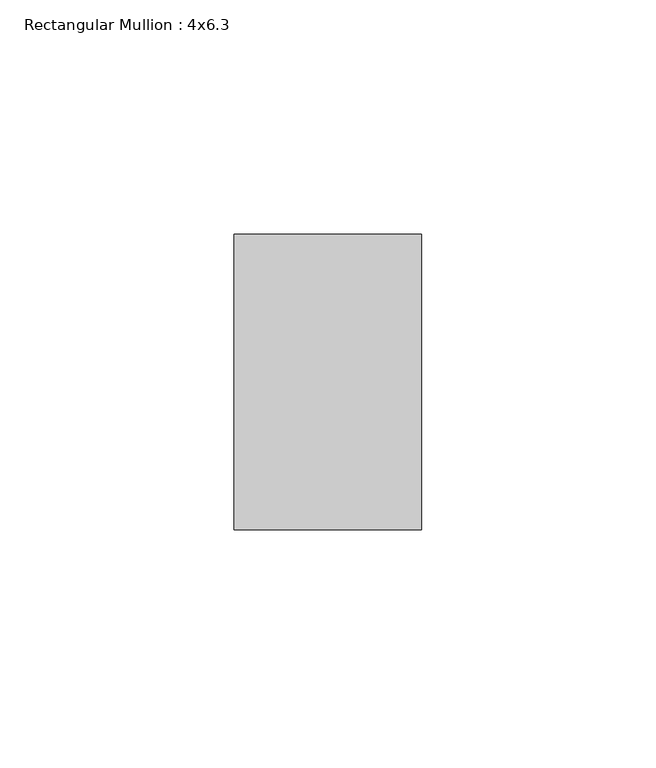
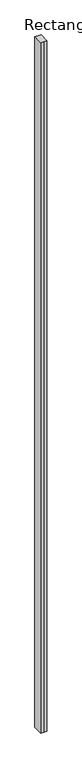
"""IFC4 building model written with IfcOpenShell, lengths in millimetres: member geometry, Rectangular Mullion : 4x6.3."""

import ifcopenshell
import ifcopenshell.guid

model = None  # the IFC model being written
_history = None  # IfcOwnerHistory: only IFC2X3 demands one
_inside = {}  # id of a spatial element -> (the spatial element, [elements in it])
_under = {}  # id of a project, library or spatial element -> (it, [spatial elements below it])
_declared = {}  # id of a project -> (the project, [libraries it declares])
_typed = {}  # id of a type object -> (the type object, [elements of that type])
_made_of = {}  # id of a material, layer set ... -> (it, [elements and type objects made of it])


def new_model(schema):
    """Start an empty IFC model of exactly this schema.

    Asked for "IFC4X3", IfcOpenShell would pick the latest addendum, in which some entities
    have other attributes; the version numbers below select the first issue.
    IFC2X3 requires an IfcOwnerHistory on every rooted entity: one is made here for all.
    """
    global model, _history
    if schema == "IFC4X3":
        model = ifcopenshell.file(schema_version=(4, 3, 0, 0))
    else:
        model = ifcopenshell.file(schema=schema)
    _inside.clear()
    _under.clear()
    _declared.clear()
    _typed.clear()
    _made_of.clear()
    _history = None
    if model.schema == "IFC2X3":
        org = make("IfcOrganization", Name="unknown")
        user = make(
            "IfcPersonAndOrganization",
            ThePerson=make("IfcPerson", FamilyName="unknown"),
            TheOrganization=org,
        )
        app = make(
            "IfcApplication",
            ApplicationDeveloper=org,
            Version="unknown",
            ApplicationFullName="unknown",
            ApplicationIdentifier="unknown",
        )
        _history = make(
            "IfcOwnerHistory",
            OwningUser=user,
            OwningApplication=app,
            ChangeAction="ADDED",
            CreationDate=0,
        )
    return model


def make(cls, **values):
    """One entity of the class cls with the attributes given. An attribute that is None is left unset."""
    return model.create_entity(
        cls, **{name: value for name, value in values.items() if value is not None}
    )


def rooted(cls, **values):
    """An entity with a GlobalId (a new one), such as an element, a storey or a relation."""
    return make(cls, GlobalId=ifcopenshell.guid.new(), OwnerHistory=_history, **values)


def si_unit(unit_type, name, prefix=None):
    """IfcSIUnit, for example si_unit("LENGTHUNIT", "METRE", prefix="MILLI")."""
    return make("IfcSIUnit", UnitType=unit_type, Prefix=prefix, Name=name)


def assignment(units):
    """IfcUnitAssignment: the units of a project."""
    return None if units is None else make("IfcUnitAssignment", Units=units)


def point(xyz):
    """IfcCartesianPoint."""
    return None if xyz is None else make("IfcCartesianPoint", Coordinates=xyz)


def direction(xyz):
    """IfcDirection."""
    return None if xyz is None else make("IfcDirection", DirectionRatios=xyz)


def frame(location, z_axis=None, x_axis=None):
    """IfcAxis2Placement3D, a coordinate frame: its origin and axes. An axis left out is left unset."""
    return make(
        "IfcAxis2Placement3D",
        Location=point(location),
        Axis=direction(z_axis),
        RefDirection=direction(x_axis),
    )


def origin():
    """The frame at (0, 0, 0) with its axes left unset."""
    return frame((0.0, 0.0, 0.0))


def place(relative_to, where):
    """IfcLocalPlacement: puts the frame where relative to a parent placement (None: the world)."""
    return make(
        "IfcLocalPlacement", PlacementRelTo=relative_to, RelativePlacement=where
    )


def context(
    kind, dimensions, precision=None, world=None, true_north=None, identifier=None
):
    """IfcGeometricRepresentationContext, for example the 3D "Model" context."""
    return make(
        "IfcGeometricRepresentationContext",
        ContextIdentifier=identifier,
        ContextType=kind,
        CoordinateSpaceDimension=dimensions,
        Precision=precision,
        WorldCoordinateSystem=world,
        TrueNorth=true_north,
    )


def project(units=None, contexts=None):
    """IfcProject with its units and contexts."""
    return rooted(
        "IfcProject",
        Name="project",
        RepresentationContexts=contexts,
        UnitsInContext=assignment(units),
    )


def spatial(cls, under=None, at=None, **own):
    """A site, building, storey or space (cls), placed at a placement, below another one or the project."""
    s = rooted(cls, ObjectPlacement=at, **own)
    if under is not None:
        _under.setdefault(under.id(), (under, []))[1].append(s)
    return s


def polyline(points):
    """IfcPolyline through the points."""
    return make("IfcPolyline", Points=[point(p) for p in points])


def outline(outer, holes=None, kind="AREA"):
    """IfcArbitraryClosedProfileDef: a profile drawn as a closed curve; with holes, ...WithVoids."""
    if holes is None:
        return make("IfcArbitraryClosedProfileDef", ProfileType=kind, OuterCurve=outer)
    return make(
        "IfcArbitraryProfileDefWithVoids",
        ProfileType=kind,
        OuterCurve=outer,
        InnerCurves=holes,
    )


def extrude(swept, where, along, depth):
    """IfcExtrudedAreaSolid: the profile swept, set in the frame where, extruded along a direction by depth."""
    return make(
        "IfcExtrudedAreaSolid",
        SweptArea=swept,
        Position=where,
        ExtrudedDirection=direction(along),
        Depth=depth,
    )


def shape(context_of_items, identifier, shape_type, items):
    """IfcShapeRepresentation: the items that make up one representation, for example the "Body"."""
    return make(
        "IfcShapeRepresentation",
        ContextOfItems=context_of_items,
        RepresentationIdentifier=identifier,
        RepresentationType=shape_type,
        Items=items,
    )


def source(mapping_origin, context_of_items, identifier, shape_type, items):
    """IfcRepresentationMap: a shape defined once, which mapped items show again and again."""
    return make(
        "IfcRepresentationMap",
        MappingOrigin=mapping_origin,
        MappedRepresentation=shape(context_of_items, identifier, shape_type, items),
    )


def transform(
    local_origin,
    x_axis=None,
    y_axis=None,
    z_axis=None,
    scale=None,
    scale2=None,
    scale3=None,
    uniform=True,
):
    """IfcCartesianTransformationOperator3D, or its non-uniform kind. x_axis, y_axis, z_axis: its Axis1, 2, 3."""
    if uniform:
        return make(
            "IfcCartesianTransformationOperator3D",
            Axis1=direction(x_axis),
            Axis2=direction(y_axis),
            LocalOrigin=point(local_origin),
            Scale=scale,
            Axis3=direction(z_axis),
        )
    return make(
        "IfcCartesianTransformationOperator3DnonUniform",
        Axis1=direction(x_axis),
        Axis2=direction(y_axis),
        LocalOrigin=point(local_origin),
        Scale=scale,
        Axis3=direction(z_axis),
        Scale2=scale2,
        Scale3=scale3,
    )


def mapped(mapping_source, mapping_target):
    """IfcMappedItem: shows the shape of a source again, moved by a transform."""
    return make(
        "IfcMappedItem", MappingSource=mapping_source, MappingTarget=mapping_target
    )


def made_of(thing, what):
    """Note that an element or type object is made of a material, layer set ...; save() writes the relation."""
    if what is not None:
        _made_of.setdefault(what.id(), (what, []))[1].append(thing)
    return thing


def element(
    cls,
    number,
    at=None,
    inside=None,
    cuts=None,
    type_object=None,
    material=None,
    context=None,
    identifier="Body",
    shape_type=None,
    held_by="IfcProductDefinitionShape",
    body=None,
    shapes=None,
    **own,
):
    """One element of the class cls, such as IfcWall. Its Tag is "e" and its number.

    at: its placement. inside: the storey or other place that contains it. cuts: it is an
    opening in that element (IfcRelVoidsElement). A single representation is given by context,
    identifier, shape_type and body (its items); several are given by shapes. held_by: the class
    of the entity that holds the representations. save() writes the other relations.
    """
    e = rooted(cls, Tag="e%d" % number, ObjectPlacement=at, **own)
    if body is not None:
        shapes = [shape(context, identifier, shape_type, body)]
    if shapes is not None:
        e.Representation = make(held_by, Representations=shapes)
    if inside is not None:
        _inside.setdefault(inside.id(), (inside, []))[1].append(e)
    if cuts is not None:
        rooted(
            "IfcRelVoidsElement", RelatingBuildingElement=cuts, RelatedOpeningElement=e
        )
    if type_object is not None:
        _typed.setdefault(type_object.id(), (type_object, []))[1].append(e)
    return made_of(e, material)


def aggregate(whole, parts):
    """IfcRelAggregates: a whole, such as a stair, and the parts it consists of."""
    return rooted("IfcRelAggregates", RelatingObject=whole, RelatedObjects=parts)


def save(model, path):
    """Write the relations noted so far, then the file.

    IfcRelAggregates (storeys below a building ...), IfcRelContainedInSpatialStructure (elements
    in a storey), IfcRelDefinesByType, IfcRelAssociatesMaterial and IfcRelDeclares: one each for
    every whole, place, type object, material and project.
    """
    for whole, parts in _under.values():
        aggregate(whole, parts)
    for where, things in _inside.values():
        rooted(
            "IfcRelContainedInSpatialStructure",
            RelatedElements=things,
            RelatingStructure=where,
        )
    for kind, things in _typed.values():
        rooted("IfcRelDefinesByType", RelatedObjects=things, RelatingType=kind)
    for what, things in _made_of.values():
        rooted("IfcRelAssociatesMaterial", RelatedObjects=things, RelatingMaterial=what)
    for by, libraries in _declared.values():
        rooted("IfcRelDeclares", RelatingContext=by, RelatedDefinitions=libraries)
    model.write(path)


def rectangular_mullion_4x6_3_6243c44b(model_context):
    return source(origin(), model_context, "Body", "SweptSolid", [
        extrude(outline(polyline([(-20.0, 20.0), (-20.0, 83.0), (20.0, 83.0), (20.0, 20.0), (0.0, 20.0), (-20.0, 20.0)])), frame((0.0, 0.0, -4711.0490938), z_axis=(0.0, 0.0, 1.0), x_axis=(1.0, 0.0, 0.0)), (0.0, 0.0, 1.0), 4711.0490938),
    ])


if __name__ == "__main__":
    model = new_model("IFC4")
    model_context = context("Model", 3, world=origin())
    ifc_project = project(units=[si_unit("LENGTHUNIT", "METRE", prefix="MILLI")], contexts=[model_context])
    site = spatial("IfcSite", under=ifc_project)
    building = spatial("IfcBuilding", under=site)
    placement = place(None, origin())
    rectangular_mullion_4x6_3_shape = rectangular_mullion_4x6_3_6243c44b(model_context)
    element("IfcMember", 1, ObjectType="Rectangular Mullion : 4x6.3", at=placement, inside=building, context=model_context, shape_type="MappedRepresentation", body=[
        mapped(rectangular_mullion_4x6_3_shape, transform((0.0, 0.0, 0.0), x_axis=(1.0, 0.0, 0.0), y_axis=(0.0, 1.0, 0.0), z_axis=(0.0, 0.0, 1.0))),
    ])
    save(model, "model.ifc")
